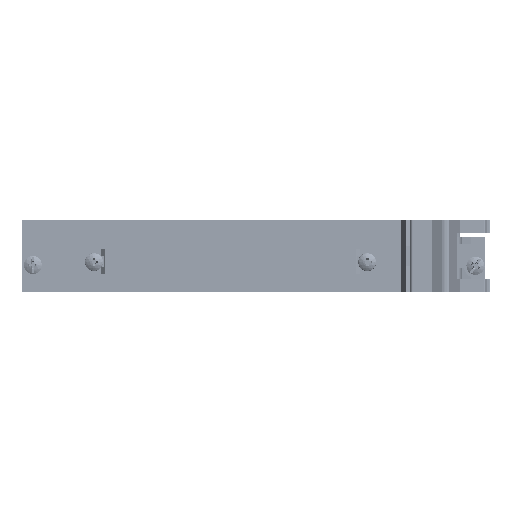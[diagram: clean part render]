
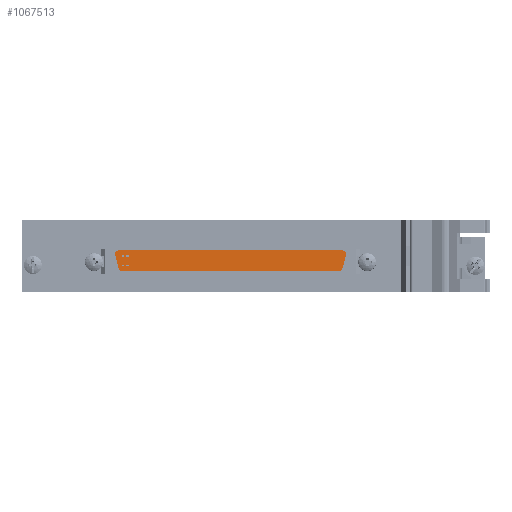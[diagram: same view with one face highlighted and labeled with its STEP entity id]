
A CAD part, left-side view. The second image highlights one B-rep face of the part: STEP entity #1067513.
In plain terms, the highlighted planar face has unit normal (-1, 0, 0).
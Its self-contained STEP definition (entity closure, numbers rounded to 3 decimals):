
#246453 = EDGE_LOOP ( 'NONE', ( #528489, #529949, #530723, #531815, #528579, #522414, #523464, #522865 ) ) ;
#271892 = AXIS2_PLACEMENT_3D ( 'NONE', #464993, #465002, #465013 ) ;
#339319 = AXIS2_PLACEMENT_3D ( 'NONE', #737279, #737286, #737294 ) ;
#339332 = AXIS2_PLACEMENT_3D ( 'NONE', #737597, #737605, #737614 ) ;
#339344 = AXIS2_PLACEMENT_3D ( 'NONE', #737911, #737921, #737931 ) ;
#339355 = AXIS2_PLACEMENT_3D ( 'NONE', #738231, #738244, #738253 ) ;
#443085 = CIRCLE ( 'NONE', #339319, 1. ) ;
#443108 = LINE ( 'NONE', #737493, #443120 ) ;
#443117 = CIRCLE ( 'NONE', #339332, 1. ) ;
#443120 = VECTOR ( 'NONE', #737510, 1000. ) ;
#443148 = CIRCLE ( 'NONE', #339344, 1. ) ;
#443156 = LINE ( 'NONE', #737805, #443161 ) ;
#443161 = VECTOR ( 'NONE', #737822, 1000. ) ;
#443183 = CIRCLE ( 'NONE', #339355, 1. ) ;
#443189 = LINE ( 'NONE', #737964, #443201 ) ;
#443201 = VECTOR ( 'NONE', #738125, 1000. ) ;
#443227 = LINE ( 'NONE', #738206, #443248 ) ;
#443248 = VECTOR ( 'NONE', #738300, 1000. ) ;
#464770 = PLANE ( 'NONE',  #271892 ) ;
#464993 = CARTESIAN_POINT ( 'NONE',  ( -41.281, 46.2, 102.058 ) ) ;
#465002 = DIRECTION ( 'NONE',  ( -1., 0., 0. ) ) ;
#465013 = DIRECTION ( 'NONE',  ( 0., -1., 0. ) ) ;
#490762 = VERTEX_POINT ( 'NONE', #987110 ) ;
#490783 = VERTEX_POINT ( 'NONE', #987156 ) ;
#490817 = VERTEX_POINT ( 'NONE', #987203 ) ;
#490824 = VERTEX_POINT ( 'NONE', #987195 ) ;
#490839 = VERTEX_POINT ( 'NONE', #987172 ) ;
#490846 = VERTEX_POINT ( 'NONE', #987217 ) ;
#490861 = VERTEX_POINT ( 'NONE', #987178 ) ;
#490869 = VERTEX_POINT ( 'NONE', #987211 ) ;
#491859 = FACE_OUTER_BOUND ( 'NONE', #246453, .T. ) ;
#522414 = ORIENTED_EDGE ( 'NONE', *, *, #752827, .T. ) ;
#522865 = ORIENTED_EDGE ( 'NONE', *, *, #752852, .T. ) ;
#523464 = ORIENTED_EDGE ( 'NONE', *, *, #752840, .T. ) ;
#528489 = ORIENTED_EDGE ( 'NONE', *, *, #752775, .T. ) ;
#528579 = ORIENTED_EDGE ( 'NONE', *, *, #752816, .T. ) ;
#529949 = ORIENTED_EDGE ( 'NONE', *, *, #752786, .T. ) ;
#530723 = ORIENTED_EDGE ( 'NONE', *, *, #752796, .T. ) ;
#531815 = ORIENTED_EDGE ( 'NONE', *, *, #752805, .T. ) ;
#737279 = CARTESIAN_POINT ( 'NONE',  ( -41.281, 46.2, 102.058 ) ) ;
#737286 = DIRECTION ( 'NONE',  ( -1., 0., 0. ) ) ;
#737294 = DIRECTION ( 'NONE',  ( 0., -1., 0. ) ) ;
#737493 = CARTESIAN_POINT ( 'NONE',  ( -41.281, 108.26, 103.058 ) ) ;
#737510 = DIRECTION ( 'NONE',  ( 0., 1., 0. ) ) ;
#737597 = CARTESIAN_POINT ( 'NONE',  ( -41.281, 108.26, 102.058 ) ) ;
#737605 = DIRECTION ( 'NONE',  ( -1., 0., 0. ) ) ;
#737614 = DIRECTION ( 'NONE',  ( 0., 1., 0. ) ) ;
#737805 = CARTESIAN_POINT ( 'NONE',  ( -41.281, 109.226, 101.799 ) ) ;
#737822 = DIRECTION ( 'NONE',  ( 0., -0.259, -0.966 ) ) ;
#737911 = CARTESIAN_POINT ( 'NONE',  ( -41.281, 107.269, 98.358 ) ) ;
#737921 = DIRECTION ( 'NONE',  ( -1., 0., 0. ) ) ;
#737931 = DIRECTION ( 'NONE',  ( 0., 1., 0. ) ) ;
#737964 = CARTESIAN_POINT ( 'NONE',  ( -41.281, 47.191, 97.358 ) ) ;
#738125 = DIRECTION ( 'NONE',  ( 0., -1., 0. ) ) ;
#738206 = CARTESIAN_POINT ( 'NONE',  ( -41.281, 45.234, 101.799 ) ) ;
#738231 = CARTESIAN_POINT ( 'NONE',  ( -41.281, 47.191, 98.358 ) ) ;
#738244 = DIRECTION ( 'NONE',  ( -1., 0., 0. ) ) ;
#738253 = DIRECTION ( 'NONE',  ( 0., -1., 0. ) ) ;
#738300 = DIRECTION ( 'NONE',  ( 0., -0.259, 0.966 ) ) ;
#752775 = EDGE_CURVE ( 'NONE', #490762, #490783, #443085, .T. ) ;
#752786 = EDGE_CURVE ( 'NONE', #490783, #490817, #443108, .T. ) ;
#752796 = EDGE_CURVE ( 'NONE', #490817, #490824, #443117, .T. ) ;
#752805 = EDGE_CURVE ( 'NONE', #490824, #490839, #443156, .T. ) ;
#752816 = EDGE_CURVE ( 'NONE', #490839, #490846, #443148, .T. ) ;
#752827 = EDGE_CURVE ( 'NONE', #490846, #490861, #443189, .T. ) ;
#752840 = EDGE_CURVE ( 'NONE', #490861, #490869, #443183, .T. ) ;
#752852 = EDGE_CURVE ( 'NONE', #490869, #490762, #443227, .T. ) ;
#987110 = CARTESIAN_POINT ( 'NONE',  ( -41.281, 45.234, 101.799 ) ) ;
#987156 = CARTESIAN_POINT ( 'NONE',  ( -41.281, 46.2, 103.058 ) ) ;
#987172 = CARTESIAN_POINT ( 'NONE',  ( -41.281, 108.234, 98.099 ) ) ;
#987178 = CARTESIAN_POINT ( 'NONE',  ( -41.281, 47.191, 97.358 ) ) ;
#987195 = CARTESIAN_POINT ( 'NONE',  ( -41.281, 109.226, 101.799 ) ) ;
#987203 = CARTESIAN_POINT ( 'NONE',  ( -41.281, 108.26, 103.058 ) ) ;
#987211 = CARTESIAN_POINT ( 'NONE',  ( -41.281, 46.225, 98.099 ) ) ;
#987217 = CARTESIAN_POINT ( 'NONE',  ( -41.281, 107.269, 97.358 ) ) ;
#1067513 = ADVANCED_FACE ( 'NONE', ( #491859 ), #464770, .T. ) ;
